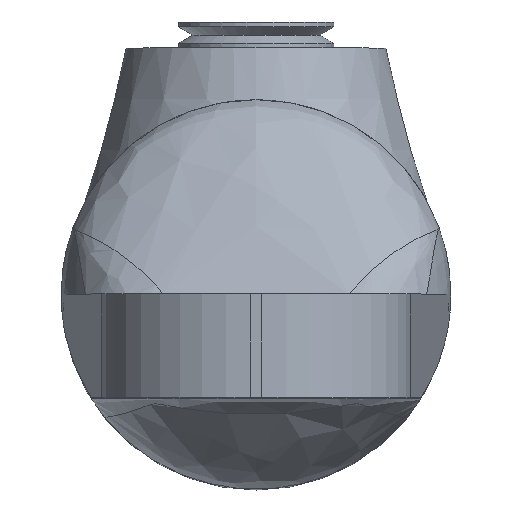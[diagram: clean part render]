
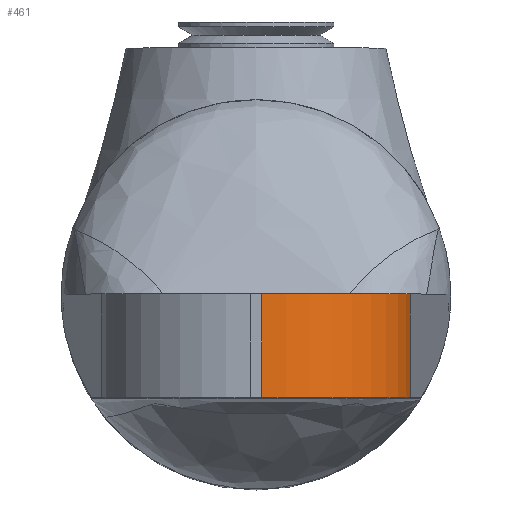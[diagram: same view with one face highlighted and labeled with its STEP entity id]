
A CAD part, top view. The second image highlights one B-rep face of the part: STEP entity #461.
In plain terms, the highlighted cylindrical face has radius 5.75 mm (diameter 11.5 mm), a partial arc.
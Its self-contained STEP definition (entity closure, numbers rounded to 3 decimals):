
#70 = EDGE_LOOP ( 'NONE', ( #2199, #2197, #2198, #2202 ) ) ;
#261 = EDGE_CURVE ( 'NONE', #2855, #2846, #2214, .T. ) ;
#265 = EDGE_CURVE ( 'NONE', #2848, #2849, #2234, .T. ) ;
#266 = EDGE_CURVE ( 'NONE', #2849, #2855, #2215, .T. ) ;
#277 = EDGE_CURVE ( 'NONE', #2848, #2846, #2226, .T. ) ;
#290 = AXIS2_PLACEMENT_3D ( 'NONE', #2756, #2755, #2754 ) ;
#299 = AXIS2_PLACEMENT_3D ( 'NONE', #2750, #2737, #2736 ) ;
#339 = AXIS2_PLACEMENT_3D ( 'NONE', #3109, #3110, #3111 ) ;
#461 = ADVANCED_FACE ( 'NONE', ( #2267 ), #2274, .T. ) ;
#1398 = CARTESIAN_POINT ( 'NONE',  ( 5.944, 0., 29.849 ) ) ;
#1508 = CARTESIAN_POINT ( 'NONE',  ( 0.225, -4., 35. ) ) ;
#1510 = CARTESIAN_POINT ( 'NONE',  ( 0.225, 0., 35. ) ) ;
#1516 = CARTESIAN_POINT ( 'NONE',  ( 5.944, -4., 29.849 ) ) ;
#2197 = ORIENTED_EDGE ( 'NONE', *, *, #277, .T. ) ;
#2198 = ORIENTED_EDGE ( 'NONE', *, *, #261, .F. ) ;
#2199 = ORIENTED_EDGE ( 'NONE', *, *, #265, .F. ) ;
#2202 = ORIENTED_EDGE ( 'NONE', *, *, #266, .F. ) ;
#2214 = CIRCLE ( 'NONE', #290, 5.75 ) ;
#2215 = LINE ( 'NONE', #2732, #2230 ) ;
#2225 = VECTOR ( 'NONE', #2501, 1000. ) ;
#2226 = LINE ( 'NONE', #2502, #2225 ) ;
#2230 = VECTOR ( 'NONE', #2731, 1000. ) ;
#2234 = CIRCLE ( 'NONE', #299, 5.75 ) ;
#2267 = FACE_OUTER_BOUND ( 'NONE', #70, .T. ) ;
#2274 = CYLINDRICAL_SURFACE ( 'NONE', #339, 5.75 ) ;
#2501 = DIRECTION ( 'NONE',  ( 0., -1., 0. ) ) ;
#2502 = CARTESIAN_POINT ( 'NONE',  ( 0.225, 0., 35. ) ) ;
#2731 = DIRECTION ( 'NONE',  ( 0., -1., 0. ) ) ;
#2732 = CARTESIAN_POINT ( 'NONE',  ( 5.944, -24.11, 29.849 ) ) ;
#2736 = DIRECTION ( 'NONE',  ( 0., 0., 1. ) ) ;
#2737 = DIRECTION ( 'NONE',  ( 0., 1., 0. ) ) ;
#2750 = CARTESIAN_POINT ( 'NONE',  ( 0.225, 0., 29.25 ) ) ;
#2754 = DIRECTION ( 'NONE',  ( 0., 0., 1. ) ) ;
#2755 = DIRECTION ( 'NONE',  ( 0., -1., 0. ) ) ;
#2756 = CARTESIAN_POINT ( 'NONE',  ( 0.225, -4., 29.25 ) ) ;
#2846 = VERTEX_POINT ( 'NONE', #1508 ) ;
#2848 = VERTEX_POINT ( 'NONE', #1510 ) ;
#2849 = VERTEX_POINT ( 'NONE', #1398 ) ;
#2855 = VERTEX_POINT ( 'NONE', #1516 ) ;
#3109 = CARTESIAN_POINT ( 'NONE',  ( 0.225, 0., 29.25 ) ) ;
#3110 = DIRECTION ( 'NONE',  ( 0., 1., 0. ) ) ;
#3111 = DIRECTION ( 'NONE',  ( 0., 0., 1. ) ) ;
